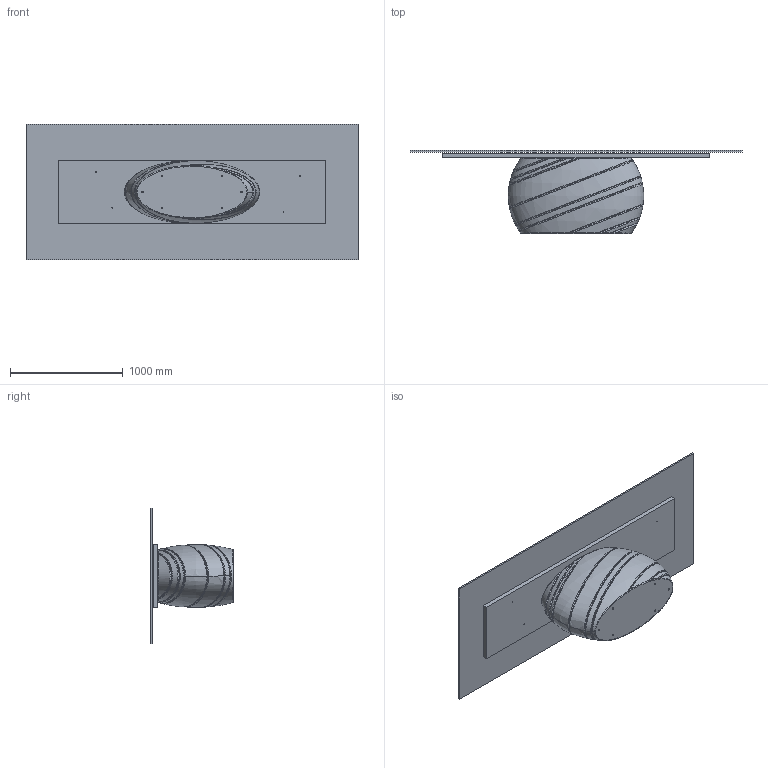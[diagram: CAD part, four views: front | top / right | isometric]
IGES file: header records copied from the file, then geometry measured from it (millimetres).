
Start section: SolidWorks IGES file using analytic representation for surfaces
Global section: file name: Y:\eforma\TECNICO\SOLIDWORKS\E-FORMA\1-TAVOLI\GIOVE\08 modelli 3D web\GI29G.IGS; native system: SolidWorks 2022; preprocessor: SolidWorks 2022; author: eforma.tech; date: 250422.161753; units: millimetre
Bounding box: 2950 x 737 x 1200 mm (x, y, z)
Volume: 422909860.8 mm3; surface area: 12869013.7 mm2
Topology: 3 solids, 3 shells, 148 faces, 357 edges, 230 vertices
Faces by surface type: revolution 60, bspline 53, plane 35
